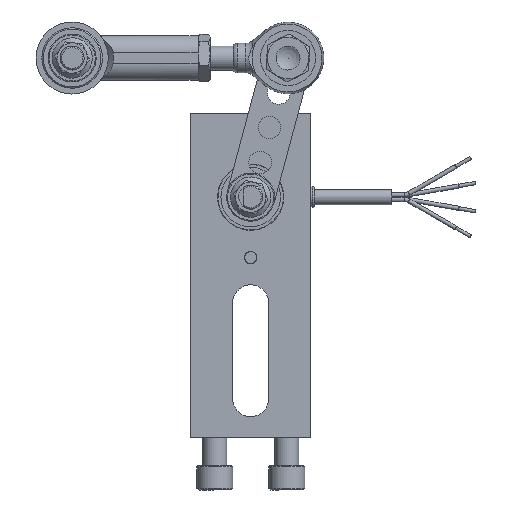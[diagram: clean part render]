
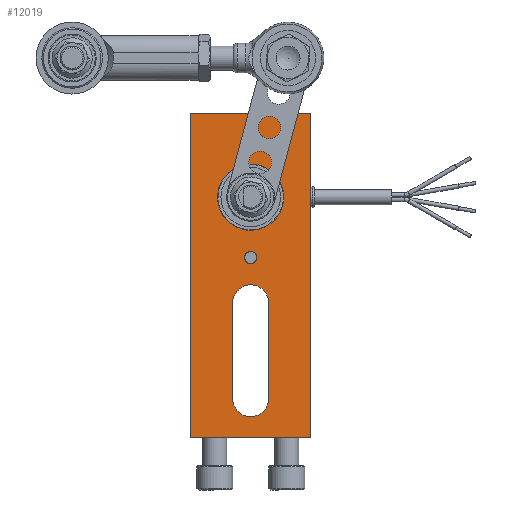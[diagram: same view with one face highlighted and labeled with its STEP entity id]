
A CAD part, front view. The second image highlights one B-rep face of the part: STEP entity #12019.
In plain terms, the highlighted planar face has unit normal (0, -1, 0).
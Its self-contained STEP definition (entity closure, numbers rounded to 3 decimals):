
#787=CIRCLE('',#12743,1.654);
#788=CIRCLE('',#12744,1.654);
#789=CIRCLE('',#12745,4.763);
#790=CIRCLE('',#12746,4.763);
#791=CIRCLE('',#12747,7.938);
#1387=ORIENTED_EDGE('',*,*,#3765,.T.);
#1388=ORIENTED_EDGE('',*,*,#3766,.T.);
#1389=ORIENTED_EDGE('',*,*,#3767,.F.);
#1390=ORIENTED_EDGE('',*,*,#3768,.F.);
#1391=ORIENTED_EDGE('',*,*,#3769,.F.);
#1392=ORIENTED_EDGE('',*,*,#3770,.F.);
#1393=ORIENTED_EDGE('',*,*,#3771,.F.);
#1394=ORIENTED_EDGE('',*,*,#3772,.F.);
#1395=ORIENTED_EDGE('',*,*,#3773,.F.);
#1396=ORIENTED_EDGE('',*,*,#3774,.F.);
#1397=ORIENTED_EDGE('',*,*,#3775,.T.);
#3765=EDGE_CURVE('',#4954,#4954,#787,.T.);
#3766=EDGE_CURVE('',#4955,#4955,#788,.T.);
#3767=EDGE_CURVE('',#4956,#4957,#5811,.T.);
#3768=EDGE_CURVE('',#4958,#4956,#789,.T.);
#3769=EDGE_CURVE('',#4959,#4958,#5812,.T.);
#3770=EDGE_CURVE('',#4957,#4959,#790,.T.);
#3771=EDGE_CURVE('',#4960,#4961,#5813,.T.);
#3772=EDGE_CURVE('',#4962,#4960,#5814,.T.);
#3773=EDGE_CURVE('',#4963,#4962,#5815,.T.);
#3774=EDGE_CURVE('',#4961,#4963,#5816,.T.);
#3775=EDGE_CURVE('',#4964,#4964,#791,.T.);
#4954=VERTEX_POINT('',#16866);
#4955=VERTEX_POINT('',#16868);
#4956=VERTEX_POINT('',#16870);
#4957=VERTEX_POINT('',#16871);
#4958=VERTEX_POINT('',#16873);
#4959=VERTEX_POINT('',#16875);
#4960=VERTEX_POINT('',#16878);
#4961=VERTEX_POINT('',#16879);
#4962=VERTEX_POINT('',#16881);
#4963=VERTEX_POINT('',#16883);
#4964=VERTEX_POINT('',#16886);
#5811=LINE('',#16869,#6199);
#5812=LINE('',#16874,#6200);
#5813=LINE('',#16877,#6201);
#5814=LINE('',#16880,#6202);
#5815=LINE('',#16882,#6203);
#5816=LINE('',#16884,#6204);
#6199=VECTOR('',#14000,1000.);
#6200=VECTOR('',#14003,1000.);
#6201=VECTOR('',#14006,1000.);
#6202=VECTOR('',#14007,1000.);
#6203=VECTOR('',#14008,1000.);
#6204=VECTOR('',#14009,1000.);
#6586=EDGE_LOOP('',(#1387));
#6587=EDGE_LOOP('',(#1388));
#6588=EDGE_LOOP('',(#1389,#1390,#1391,#1392));
#6589=EDGE_LOOP('',(#1393,#1394,#1395,#1396));
#6590=EDGE_LOOP('',(#1397));
#7527=FACE_BOUND('',#6586,.T.);
#7528=FACE_BOUND('',#6587,.T.);
#7529=FACE_BOUND('',#6588,.T.);
#7530=FACE_BOUND('',#6589,.T.);
#7531=FACE_BOUND('',#6590,.T.);
#8470=PLANE('',#12742);
#12019=ADVANCED_FACE('',(#7527,#7528,#7529,#7530,#7531),#8470,.F.);
#12742=AXIS2_PLACEMENT_3D('',#16864,#13994,#13995);
#12743=AXIS2_PLACEMENT_3D('',#16865,#13996,#13997);
#12744=AXIS2_PLACEMENT_3D('',#16867,#13998,#13999);
#12745=AXIS2_PLACEMENT_3D('',#16872,#14001,#14002);
#12746=AXIS2_PLACEMENT_3D('',#16876,#14004,#14005);
#12747=AXIS2_PLACEMENT_3D('',#16885,#14010,#14011);
#13994=DIRECTION('',(0.,1.,0.));
#13995=DIRECTION('',(0.,0.,1.));
#13996=DIRECTION('',(0.,1.,0.));
#13997=DIRECTION('',(0.,0.,1.));
#13998=DIRECTION('',(0.,1.,0.));
#13999=DIRECTION('',(0.,0.,1.));
#14000=DIRECTION('',(0.,0.,1.));
#14001=DIRECTION('',(0.,-1.,0.));
#14002=DIRECTION('',(-1.,0.,0.));
#14003=DIRECTION('',(0.,0.,-1.));
#14004=DIRECTION('',(0.,-1.,0.));
#14005=DIRECTION('',(1.,0.,0.));
#14006=DIRECTION('',(-1.,0.,0.));
#14007=DIRECTION('',(0.,0.,-1.));
#14008=DIRECTION('',(1.,0.,0.));
#14009=DIRECTION('',(0.,0.,1.));
#14010=DIRECTION('',(0.,1.,0.));
#14011=DIRECTION('',(1.,0.,0.));
#16864=CARTESIAN_POINT('',(0.,0.,0.));
#16865=CARTESIAN_POINT('',(15.875,0.,47.5));
#16866=CARTESIAN_POINT('',(15.875,0.,49.154));
#16867=CARTESIAN_POINT('',(15.875,0.,79.5));
#16868=CARTESIAN_POINT('',(15.875,0.,81.154));
#16869=CARTESIAN_POINT('',(20.638,0.,10.16));
#16870=CARTESIAN_POINT('',(20.638,0.,10.16));
#16871=CARTESIAN_POINT('',(20.638,0.,35.56));
#16872=CARTESIAN_POINT('',(15.875,0.,10.16));
#16873=CARTESIAN_POINT('',(11.113,0.,10.16));
#16874=CARTESIAN_POINT('',(11.113,0.,10.16));
#16875=CARTESIAN_POINT('',(11.113,0.,35.56));
#16876=CARTESIAN_POINT('',(15.875,0.,35.56));
#16877=CARTESIAN_POINT('',(0.,0.,0.));
#16878=CARTESIAN_POINT('',(31.75,0.,0.));
#16879=CARTESIAN_POINT('',(0.,0.,0.));
#16880=CARTESIAN_POINT('',(31.75,0.,85.725));
#16881=CARTESIAN_POINT('',(31.75,0.,85.725));
#16882=CARTESIAN_POINT('',(0.,0.,85.725));
#16883=CARTESIAN_POINT('',(0.,0.,85.725));
#16884=CARTESIAN_POINT('',(0.,0.,0.));
#16885=CARTESIAN_POINT('',(15.875,0.,63.5));
#16886=CARTESIAN_POINT('',(23.813,0.,63.5));
